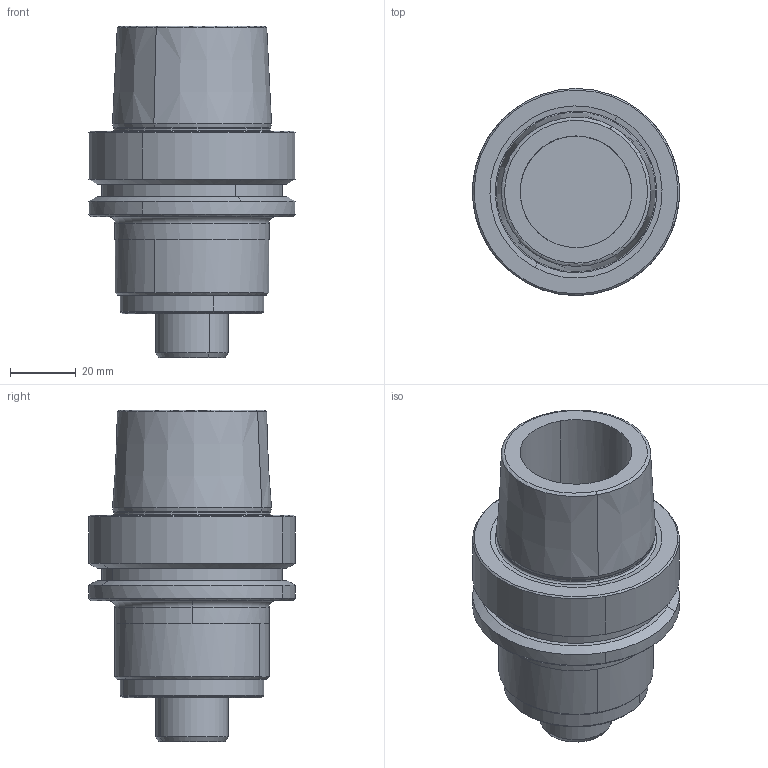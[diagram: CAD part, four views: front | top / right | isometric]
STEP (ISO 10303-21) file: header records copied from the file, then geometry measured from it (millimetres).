
FILE_DESCRIPTION(('CATIA V5 STEP','CAx-IF Rec.Pracs.--- Model Styling and Organization---1.2---2011-12-15'),'2;1');
FILE_NAME('C:\eit\appserv\eitdev\tmp\eit\transmagicconvert\13144013\4504507-L-M.stp','2017-04-13T11:40:18+00:00',('none'),('none'),'CATIA Version 5 Release 21 SP 5 (IN-10)','CATIA V5 STEP AP214','none');
FILE_SCHEMA(('AUTOMOTIVE_DESIGN { 1 0 10303 214 1 1 1 1 }'));
Length unit declared in the file: millimetre
Products named in the file (1): HSK E 63 SEM 22X 50
Bounding box: 62.98 x 63 x 101 mm (x, y, z)
Volume: 155717 mm3; surface area: 26711.7 mm2
Topology: 1 solids, 1 shells, 82 faces, 192 edges, 119 vertices
Faces by surface type: cone 26, cylinder 24, plane 12, torus 12, revolution 8
Entity records: 2343 total; most frequent: CARTESIAN_POINT 604, ORIENTED_EDGE 380, DIRECTION 276, EDGE_CURVE 190, AXIS2_PLACEMENT_3D 169, CIRCLE 122, VERTEX_POINT 119, EDGE_LOOP 91
